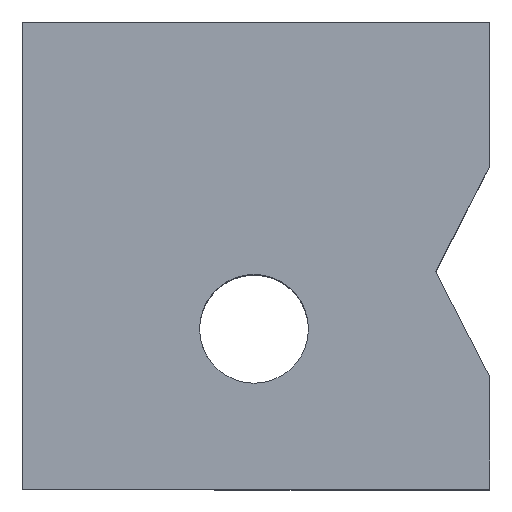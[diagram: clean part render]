
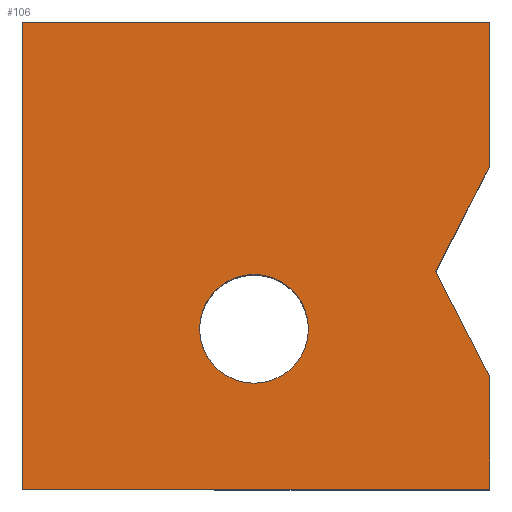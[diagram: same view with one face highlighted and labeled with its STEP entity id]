
A CAD part, top view. The second image highlights one B-rep face of the part: STEP entity #106.
In plain terms, the highlighted planar face has unit normal (0, 0, 1).
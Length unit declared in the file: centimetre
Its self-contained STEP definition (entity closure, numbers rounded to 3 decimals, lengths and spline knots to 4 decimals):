
#11 = CARTESIAN_POINT ( 'NONE',  ( 884.2085, 466.4302, 1000. ) ) ;
#14 = AXIS2_PLACEMENT_3D ( 'NONE', #138, #1279, #615 ) ;
#31 = ORIENTED_EDGE ( 'NONE', *, *, #505, .F. ) ;
#48 = ORIENTED_EDGE ( 'NONE', *, *, #1825, .T. ) ;
#81 = FACE_OUTER_BOUND ( 'NONE', #345, .T. ) ;
#91 = VERTEX_POINT ( 'NONE', #1162 ) ;
#106 = ADVANCED_FACE ( 'NONE', ( #81, #783 ), #1369, .T. ) ;
#138 = CARTESIAN_POINT ( 'NONE',  ( 495.7826, 343.2305, 1000. ) ) ;
#149 = DIRECTION ( 'NONE',  ( -1., 0., 0. ) ) ;
#170 = EDGE_LOOP ( 'NONE', ( #515, #31 ) ) ;
#172 = CARTESIAN_POINT ( 'NONE',  ( 1000., 0., 1000. ) ) ;
#176 = EDGE_CURVE ( 'NONE', #1846, #936, #1636, .T. ) ;
#214 = DIRECTION ( 'NONE',  ( 1., 0., 0. ) ) ;
#231 = ORIENTED_EDGE ( 'NONE', *, *, #304, .T. ) ;
#262 = VERTEX_POINT ( 'NONE', #1073 ) ;
#284 = LINE ( 'NONE', #1281, #1540 ) ;
#286 = VECTOR ( 'NONE', #841, 100. ) ;
#304 = EDGE_CURVE ( 'NONE', #332, #1412, #1484, .T. ) ;
#332 = VERTEX_POINT ( 'NONE', #172 ) ;
#345 = EDGE_LOOP ( 'NONE', ( #1106, #1721, #48, #1383, #849, #497, #231 ) ) ;
#353 = EDGE_CURVE ( 'NONE', #691, #91, #975, .T. ) ;
#366 = CARTESIAN_POINT ( 'NONE',  ( 495.7826, 343.2305, 1000. ) ) ;
#369 = AXIS2_PLACEMENT_3D ( 'NONE', #371, #1350, #492 ) ;
#371 = CARTESIAN_POINT ( 'NONE',  ( 0., 0., 1000. ) ) ;
#426 = CARTESIAN_POINT ( 'NONE',  ( 0., 1000., 1000. ) ) ;
#453 = DIRECTION ( 'NONE',  ( -0.457, -0.889, 0. ) ) ;
#492 = DIRECTION ( 'NONE',  ( 1., 0., 0. ) ) ;
#497 = ORIENTED_EDGE ( 'NONE', *, *, #1478, .T. ) ;
#505 = EDGE_CURVE ( 'NONE', #936, #1846, #959, .T. ) ;
#510 = VECTOR ( 'NONE', #453, 100. ) ;
#515 = ORIENTED_EDGE ( 'NONE', *, *, #176, .F. ) ;
#540 = CARTESIAN_POINT ( 'NONE',  ( 0., 1000., 1000. ) ) ;
#554 = LINE ( 'NONE', #540, #286 ) ;
#568 = DIRECTION ( 'NONE',  ( 0., 1., 0. ) ) ;
#610 = CARTESIAN_POINT ( 'NONE',  ( 1000., 1000., 1000. ) ) ;
#615 = DIRECTION ( 'NONE',  ( 1., 0., 0. ) ) ;
#634 = AXIS2_PLACEMENT_3D ( 'NONE', #366, #1640, #214 ) ;
#691 = VERTEX_POINT ( 'NONE', #1708 ) ;
#763 = CARTESIAN_POINT ( 'NONE',  ( 379.3079, 343.2305, 1000. ) ) ;
#783 = FACE_BOUND ( 'NONE', #170, .T. ) ;
#795 = CARTESIAN_POINT ( 'NONE',  ( 612.2573, 343.2305, 1000. ) ) ;
#829 = EDGE_CURVE ( 'NONE', #91, #1656, #554, .T. ) ;
#841 = DIRECTION ( 'NONE',  ( 0., -1., 0. ) ) ;
#849 = ORIENTED_EDGE ( 'NONE', *, *, #829, .T. ) ;
#889 = DIRECTION ( 'NONE',  ( 1., 0., 0. ) ) ;
#936 = VERTEX_POINT ( 'NONE', #763 ) ;
#959 = CIRCLE ( 'NONE', #634, 116.4747 ) ;
#975 = LINE ( 'NONE', #426, #1447 ) ;
#1013 = VECTOR ( 'NONE', #889, 100. ) ;
#1019 = VERTEX_POINT ( 'NONE', #11 ) ;
#1073 = CARTESIAN_POINT ( 'NONE',  ( 1000., 691.5695, 1000. ) ) ;
#1106 = ORIENTED_EDGE ( 'NONE', *, *, #1175, .F. ) ;
#1121 = CARTESIAN_POINT ( 'NONE',  ( 1000., 1000., 1000. ) ) ;
#1143 = LINE ( 'NONE', #1732, #510 ) ;
#1158 = DIRECTION ( 'NONE',  ( 0., 1., 0. ) ) ;
#1162 = CARTESIAN_POINT ( 'NONE',  ( 0., 1000., 1000. ) ) ;
#1175 = EDGE_CURVE ( 'NONE', #1019, #1412, #284, .T. ) ;
#1199 = CARTESIAN_POINT ( 'NONE',  ( 0., 0., 1000. ) ) ;
#1275 = LINE ( 'NONE', #1121, #1294 ) ;
#1279 = DIRECTION ( 'NONE',  ( 0., 0., 1. ) ) ;
#1281 = CARTESIAN_POINT ( 'NONE',  ( 1000., 241.2908, 1000. ) ) ;
#1294 = VECTOR ( 'NONE', #568, 100. ) ;
#1350 = DIRECTION ( 'NONE',  ( 0., 0., 1. ) ) ;
#1369 = PLANE ( 'NONE',  #369 ) ;
#1383 = ORIENTED_EDGE ( 'NONE', *, *, #353, .T. ) ;
#1412 = VERTEX_POINT ( 'NONE', #1613 ) ;
#1447 = VECTOR ( 'NONE', #149, 100. ) ;
#1478 = EDGE_CURVE ( 'NONE', #1656, #332, #1759, .T. ) ;
#1482 = VECTOR ( 'NONE', #1158, 100. ) ;
#1484 = LINE ( 'NONE', #610, #1482 ) ;
#1540 = VECTOR ( 'NONE', #1870, 100. ) ;
#1596 = EDGE_CURVE ( 'NONE', #262, #1019, #1143, .T. ) ;
#1613 = CARTESIAN_POINT ( 'NONE',  ( 1000., 241.2908, 1000. ) ) ;
#1636 = CIRCLE ( 'NONE', #14, 116.4747 ) ;
#1640 = DIRECTION ( 'NONE',  ( 0., 0., 1. ) ) ;
#1656 = VERTEX_POINT ( 'NONE', #1199 ) ;
#1708 = CARTESIAN_POINT ( 'NONE',  ( 1000., 1000., 1000. ) ) ;
#1721 = ORIENTED_EDGE ( 'NONE', *, *, #1596, .F. ) ;
#1732 = CARTESIAN_POINT ( 'NONE',  ( 884.2085, 466.4302, 1000. ) ) ;
#1759 = LINE ( 'NONE', #1863, #1013 ) ;
#1825 = EDGE_CURVE ( 'NONE', #262, #691, #1275, .T. ) ;
#1846 = VERTEX_POINT ( 'NONE', #795 ) ;
#1863 = CARTESIAN_POINT ( 'NONE',  ( 0., 0., 1000. ) ) ;
#1870 = DIRECTION ( 'NONE',  ( 0.457, -0.889, 0. ) ) ;
